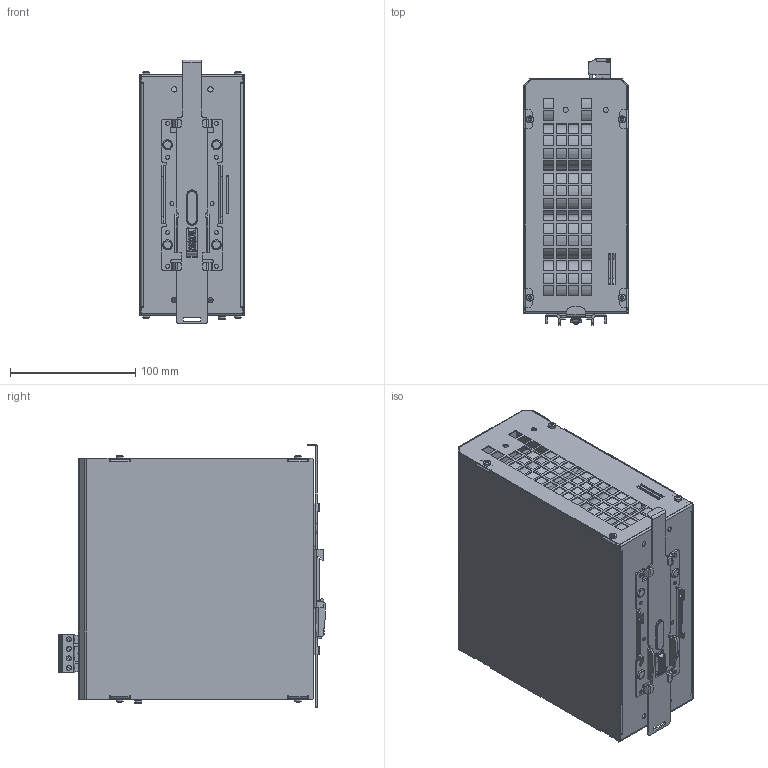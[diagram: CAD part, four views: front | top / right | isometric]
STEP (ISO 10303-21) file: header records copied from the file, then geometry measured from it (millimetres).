
FILE_DESCRIPTION(/* description */ ('CEM2420'),/* implementation_level */ '2;1');
FILE_NAME(/* name */ 'C:\VAULT_WORKSPACE\Designs\EE\0748G02001\0748G02 CEM2420.stp',/* time_stamp */ '2021-03-03T10:27:04+01:00',/* author */ ('mhe'),/* organization */ (''),/* preprocessor_version */ 'ST-DEVELOPER v18.1',/* originating_system */ 'Autodesk Inventor 2021',/* authorisation */ '');
FILE_SCHEMA (('AUTOMOTIVE_DESIGN { 1 0 10303 214 3 1 1 }'));
Products named in the file (16): 0748G02 ; 0746G10Z10; 0748G02Z05-130115; 0748G02 _1; 0748G02 _2; User Library-Terminal keystone 7700; PC 4/ 4-G-7,62; DIN7981 2,9x6,5 ; DIN6900 M3x6-gvz; 1970G01001-7000; 1970G01001-5001; VD176; 1970G01001-7002; 0748G02Z03-130115; PC4/4-ST-7.62; 0748G02001-Niet
Assembly tree (25 placements, depth 3):
  0748G02 
    0746G10Z10
    0748G02Z05-130115
    0748G02 _1
      0748G02 _2
      User Library-Terminal keystone 7700
      PC 4/ 4-G-7,62
    DIN7981 2,9x6,5   x8
    DIN6900 M3x6-gvz
    1970G01001-7000
      1970G01001-5001
      VD176
      1970G01001-7002
    0748G02Z03-130115
    PC4/4-ST-7.62
    0748G02001-Niet  x4
Bounding box: 83.7 x 213.32 x 211 mm (x, y, z)
Volume: 1301708.3 mm3; surface area: 523245.9 mm2
Topology: 25 solids, 25 shells, 3270 faces, 8852 edges, 5825 vertices
Faces by surface type: plane 2130, cylinder 560, bspline 443, cone 81, torus 35, sphere 21
Full cylindrical faces by diameter (mm): 0.457 x2, 1.3 x8, 2.5 x8, 2.693 x9, 2.75 x1, 2.8 x1, 3 x9, 3.2 x24, 3.8 x4, 4 x8, 4.2 x20, 5.6 x9, 7 x1, 8 x4, 35 x18
Entity records: 105588 total; most frequent: CARTESIAN_POINT 27845, ORIENTED_EDGE 16430, DIRECTION 13587, EDGE_CURVE 8215, LINE 6191, VECTOR 6191, VERTEX_POINT 5380, AXIS2_PLACEMENT_3D 3698
